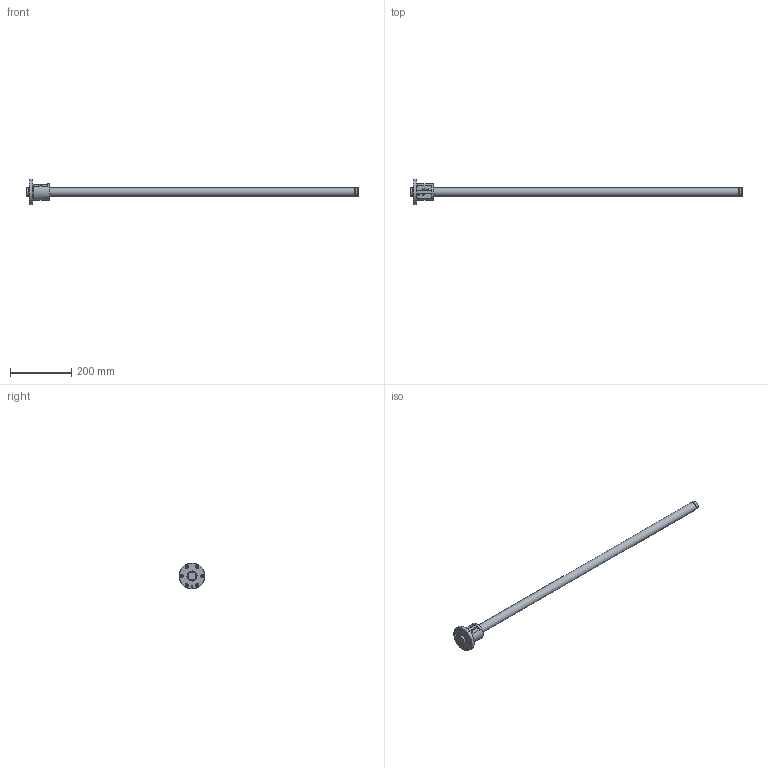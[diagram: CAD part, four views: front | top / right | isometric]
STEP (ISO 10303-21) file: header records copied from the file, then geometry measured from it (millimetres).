
FILE_DESCRIPTION( ( 'STEP AP203' ), ' ' );
FILE_NAME( 'p:/temp/worker_50/3228_2824/app_90_12018011811360594643501818fa3fd_000000_00_00_000000/format_0/BIF2806-5RRG0+1088LC0_10000.stp', '2018-01-18T10:36:07', ( '' ), ( '' ), ' ', 'PARTsolutions', ' ' );
FILE_SCHEMA( ( 'CONFIG_CONTROL_DESIGN' ) );
Length unit declared in the file: millimetre
Products named in the file (3): BIF2806-5RRG0+1088LC0_10000; _BIF 2806-5RR1000500 Shaft; _BIF 2806-5RR Nut
Assembly tree (2 placements, depth 2):
  BIF2806-5RRG0+1088LC0_10000
    _BIF 2806-5RR1000500 Shaft
    _BIF 2806-5RR Nut
Bounding box: 1088 x 85 x 85 mm (x, y, z)
Volume: 811921.8 mm3; surface area: 129179.9 mm2
Topology: 2 solids, 2 shells, 82 faces, 178 edges, 113 vertices
Faces by surface type: cylinder 39, plane 31, cone 8, torus 4
Full cylindrical faces by diameter (mm): 4.25 x2, 4.917 x1, 5.1 x4, 6.6 x6, 11 x6, 27.5 x2, 28 x4, 33 x2, 55 x1, 85 x1
Entity records: 2492 total; most frequent: CARTESIAN_POINT 701, DIRECTION 376, ORIENTED_EDGE 262, AXIS2_PLACEMENT_3D 172, EDGE_LOOP 156, EDGE_CURVE 131, FACE_OUTER_BOUND 111, VERTEX_POINT 103
